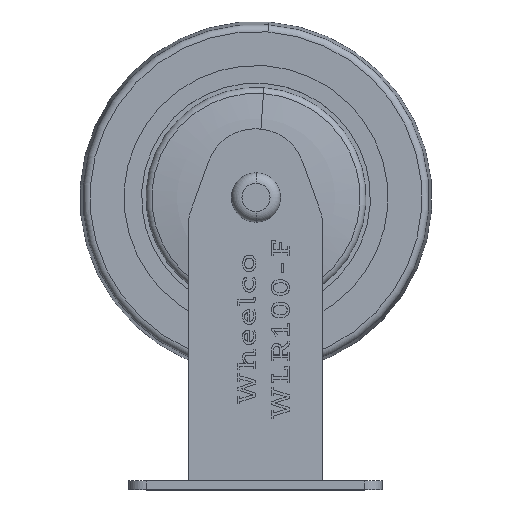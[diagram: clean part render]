
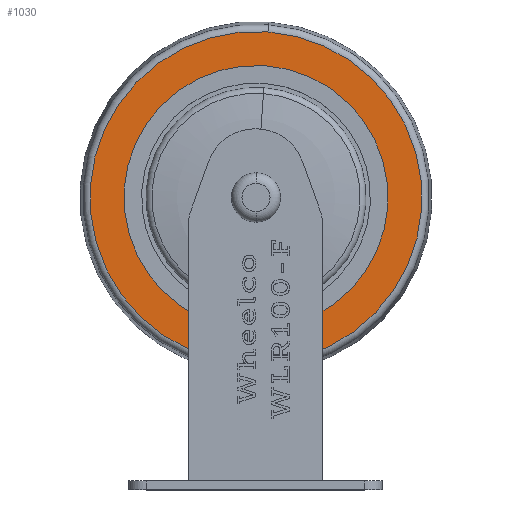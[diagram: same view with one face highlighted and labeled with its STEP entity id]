
A CAD part, top view. The second image highlights one B-rep face of the part: STEP entity #1030.
In plain terms, the highlighted planar face has unit normal (0, 0, 1) as drawn and (0, -1, 0) by its records, which use the part's own axes.
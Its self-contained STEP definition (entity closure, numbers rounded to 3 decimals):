
#220 = CARTESIAN_POINT ( 'NONE',  ( 0., -12.5, -37.5 ) ) ;
#1030 = ADVANCED_FACE ( 'NONE', ( #16789, #2684 ), #9734, .T. ) ;
#1155 = ORIENTED_EDGE ( 'NONE', *, *, #18549, .T. ) ;
#1653 = EDGE_LOOP ( 'NONE', ( #1155, #13899 ) ) ;
#2461 = AXIS2_PLACEMENT_3D ( 'NONE', #13324, #18656, #10298 ) ;
#2684 = FACE_OUTER_BOUND ( 'NONE', #1653, .T. ) ;
#3050 = CARTESIAN_POINT ( 'NONE',  ( 0., -12.5, 0. ) ) ;
#5094 = CARTESIAN_POINT ( 'NONE',  ( 0., -12.5, 0. ) ) ;
#5632 = DIRECTION ( 'NONE',  ( 0., 0., -1. ) ) ;
#5746 = DIRECTION ( 'NONE',  ( 0., -1., 0. ) ) ;
#5938 = CARTESIAN_POINT ( 'NONE',  ( 0., -12.5, 0. ) ) ;
#8278 = CIRCLE ( 'NONE', #11245, 47.154 ) ;
#8369 = VERTEX_POINT ( 'NONE', #220 ) ;
#9734 = PLANE ( 'NONE',  #2461 ) ;
#10298 = DIRECTION ( 'NONE',  ( 0., 0., 1. ) ) ;
#10466 = CARTESIAN_POINT ( 'NONE',  ( 0., -12.5, -47.154 ) ) ;
#10498 = AXIS2_PLACEMENT_3D ( 'NONE', #5094, #17458, #13997 ) ;
#11245 = AXIS2_PLACEMENT_3D ( 'NONE', #21529, #5746, #5632 ) ;
#11358 = AXIS2_PLACEMENT_3D ( 'NONE', #5938, #14621, #21603 ) ;
#12010 = CARTESIAN_POINT ( 'NONE',  ( 0., -12.5, 37.5 ) ) ;
#12254 = EDGE_CURVE ( 'NONE', #21173, #8369, #15680, .T. ) ;
#12350 = EDGE_CURVE ( 'NONE', #16438, #18664, #8278, .T. ) ;
#13324 = CARTESIAN_POINT ( 'NONE',  ( 49., -12.5, 0. ) ) ;
#13363 = DIRECTION ( 'NONE',  ( 0., -1., 0. ) ) ;
#13899 = ORIENTED_EDGE ( 'NONE', *, *, #12350, .T. ) ;
#13997 = DIRECTION ( 'NONE',  ( 0., 0., -1. ) ) ;
#14621 = DIRECTION ( 'NONE',  ( 0., -1., 0. ) ) ;
#14847 = ORIENTED_EDGE ( 'NONE', *, *, #12254, .F. ) ;
#15567 = EDGE_LOOP ( 'NONE', ( #18751, #14847 ) ) ;
#15680 = CIRCLE ( 'NONE', #10498, 37.5 ) ;
#16438 = VERTEX_POINT ( 'NONE', #21229 ) ;
#16789 = FACE_BOUND ( 'NONE', #15567, .T. ) ;
#17458 = DIRECTION ( 'NONE',  ( 0., -1., 0. ) ) ;
#17642 = EDGE_CURVE ( 'NONE', #8369, #21173, #19501, .T. ) ;
#18549 = EDGE_CURVE ( 'NONE', #18664, #16438, #22784, .T. ) ;
#18656 = DIRECTION ( 'NONE',  ( 0., -1., 0. ) ) ;
#18664 = VERTEX_POINT ( 'NONE', #10466 ) ;
#18751 = ORIENTED_EDGE ( 'NONE', *, *, #17642, .F. ) ;
#19501 = CIRCLE ( 'NONE', #11358, 37.5 ) ;
#20173 = AXIS2_PLACEMENT_3D ( 'NONE', #3050, #13363, #20452 ) ;
#20452 = DIRECTION ( 'NONE',  ( 0., 0., -1. ) ) ;
#21173 = VERTEX_POINT ( 'NONE', #12010 ) ;
#21229 = CARTESIAN_POINT ( 'NONE',  ( 0., -12.5, 47.154 ) ) ;
#21529 = CARTESIAN_POINT ( 'NONE',  ( 0., -12.5, 0. ) ) ;
#21603 = DIRECTION ( 'NONE',  ( 0., 0., -1. ) ) ;
#22784 = CIRCLE ( 'NONE', #20173, 47.154 ) ;
